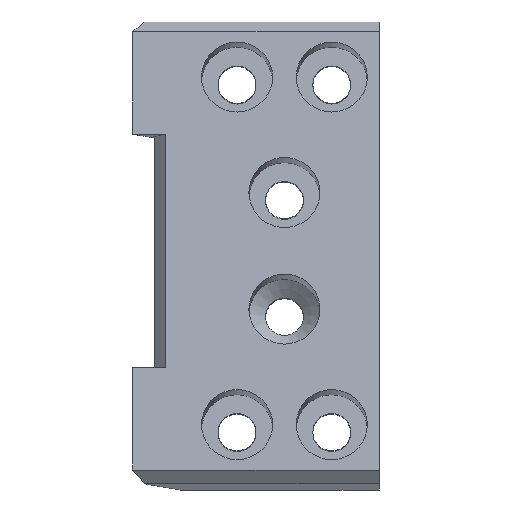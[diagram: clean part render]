
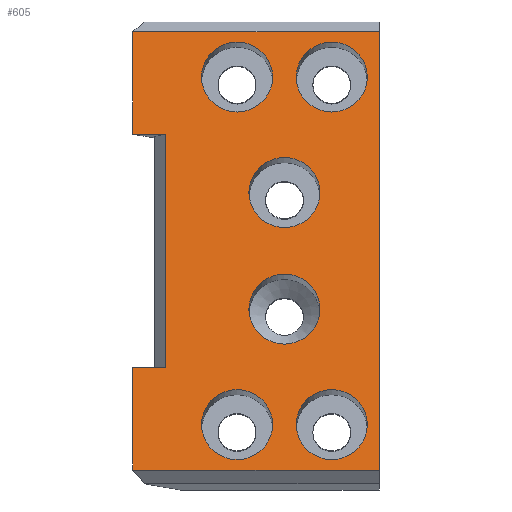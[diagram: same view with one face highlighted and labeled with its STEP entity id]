
A CAD part, top view. The second image highlights one B-rep face of the part: STEP entity #605.
In plain terms, the highlighted planar face has unit normal (0, 0.174, 0.985).
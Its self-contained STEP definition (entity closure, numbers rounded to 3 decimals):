
#15=FACE_BOUND('',#131,.T.);
#16=FACE_BOUND('',#132,.T.);
#17=FACE_BOUND('',#133,.T.);
#18=FACE_BOUND('',#134,.T.);
#19=FACE_BOUND('',#135,.T.);
#20=FACE_BOUND('',#136,.T.);
#42=CIRCLE('',#634,3.);
#46=CIRCLE('',#640,3.);
#51=CIRCLE('',#650,3.);
#54=CIRCLE('',#655,3.);
#59=CIRCLE('',#669,3.);
#62=CIRCLE('',#674,3.);
#97=FACE_OUTER_BOUND('',#130,.T.);
#130=EDGE_LOOP('',(#513,#514,#515,#516,#517,#518,#519,#520));
#131=EDGE_LOOP('',(#521));
#132=EDGE_LOOP('',(#522));
#133=EDGE_LOOP('',(#523));
#134=EDGE_LOOP('',(#524));
#135=EDGE_LOOP('',(#525));
#136=EDGE_LOOP('',(#526));
#168=LINE('',#924,#225);
#175=LINE('',#951,#232);
#183=LINE('',#970,#240);
#186=LINE('',#975,#243);
#187=LINE('',#978,#244);
#193=LINE('',#1002,#250);
#197=LINE('',#1010,#254);
#198=LINE('',#1011,#255);
#225=VECTOR('',#746,10.);
#232=VECTOR('',#775,10.);
#240=VECTOR('',#795,10.);
#243=VECTOR('',#800,10.);
#244=VECTOR('',#803,10.);
#250=VECTOR('',#831,10.);
#254=VECTOR('',#837,10.);
#255=VECTOR('',#838,10.);
#276=VERTEX_POINT('',#897);
#280=VERTEX_POINT('',#909);
#283=VERTEX_POINT('',#921);
#284=VERTEX_POINT('',#923);
#287=VERTEX_POINT('',#933);
#290=VERTEX_POINT('',#943);
#291=VERTEX_POINT('',#947);
#293=VERTEX_POINT('',#950);
#299=VERTEX_POINT('',#973);
#300=VERTEX_POINT('',#977);
#303=VERTEX_POINT('',#987);
#306=VERTEX_POINT('',#997);
#307=VERTEX_POINT('',#1001);
#310=VERTEX_POINT('',#1009);
#332=EDGE_CURVE('',#276,#276,#42,.T.);
#338=EDGE_CURVE('',#280,#280,#46,.T.);
#344=EDGE_CURVE('',#283,#284,#168,.T.);
#350=EDGE_CURVE('',#287,#287,#51,.T.);
#355=EDGE_CURVE('',#290,#290,#54,.T.);
#357=EDGE_CURVE('',#293,#291,#175,.T.);
#367=EDGE_CURVE('',#293,#283,#183,.T.);
#370=EDGE_CURVE('',#299,#284,#186,.T.);
#371=EDGE_CURVE('',#300,#299,#187,.T.);
#376=EDGE_CURVE('',#303,#303,#59,.T.);
#381=EDGE_CURVE('',#306,#306,#62,.T.);
#383=EDGE_CURVE('',#307,#291,#193,.T.);
#387=EDGE_CURVE('',#310,#307,#197,.T.);
#388=EDGE_CURVE('',#310,#300,#198,.T.);
#513=ORIENTED_EDGE('',*,*,#371,.T.);
#514=ORIENTED_EDGE('',*,*,#370,.T.);
#515=ORIENTED_EDGE('',*,*,#344,.F.);
#516=ORIENTED_EDGE('',*,*,#367,.F.);
#517=ORIENTED_EDGE('',*,*,#357,.T.);
#518=ORIENTED_EDGE('',*,*,#383,.F.);
#519=ORIENTED_EDGE('',*,*,#387,.F.);
#520=ORIENTED_EDGE('',*,*,#388,.T.);
#521=ORIENTED_EDGE('',*,*,#332,.F.);
#522=ORIENTED_EDGE('',*,*,#338,.F.);
#523=ORIENTED_EDGE('',*,*,#355,.F.);
#524=ORIENTED_EDGE('',*,*,#350,.F.);
#525=ORIENTED_EDGE('',*,*,#376,.T.);
#526=ORIENTED_EDGE('',*,*,#381,.T.);
#574=PLANE('',#676);
#605=ADVANCED_FACE('',(#97,#15,#16,#17,#18,#19,#20),#574,.T.);
#634=AXIS2_PLACEMENT_3D('',#899,#717,#718);
#640=AXIS2_PLACEMENT_3D('',#911,#731,#732);
#650=AXIS2_PLACEMENT_3D('',#935,#758,#759);
#655=AXIS2_PLACEMENT_3D('',#945,#770,#771);
#669=AXIS2_PLACEMENT_3D('',#988,#814,#815);
#674=AXIS2_PLACEMENT_3D('',#998,#826,#827);
#676=AXIS2_PLACEMENT_3D('',#1008,#835,#836);
#717=DIRECTION('center_axis',(0.,0.174,0.985));
#718=DIRECTION('ref_axis',(-1.,0.,0.));
#731=DIRECTION('center_axis',(0.,0.174,0.985));
#732=DIRECTION('ref_axis',(-1.,0.,0.));
#746=DIRECTION('',(1.,0.,0.));
#758=DIRECTION('center_axis',(0.,0.174,0.985));
#759=DIRECTION('ref_axis',(-1.,0.,0.));
#770=DIRECTION('center_axis',(0.,0.174,0.985));
#771=DIRECTION('ref_axis',(-1.,0.,0.));
#775=DIRECTION('',(1.,0.,0.));
#795=DIRECTION('',(0.,0.985,-0.174));
#800=DIRECTION('',(0.,-0.985,0.174));
#803=DIRECTION('',(1.,0.,0.));
#814=DIRECTION('center_axis',(0.,-0.174,-0.985));
#815=DIRECTION('ref_axis',(-1.,0.,0.));
#826=DIRECTION('center_axis',(0.,-0.174,-0.985));
#827=DIRECTION('ref_axis',(-1.,0.,0.));
#831=DIRECTION('',(0.,-0.985,0.174));
#835=DIRECTION('center_axis',(0.,0.174,0.985));
#836=DIRECTION('ref_axis',(-1.,0.,0.));
#837=DIRECTION('',(1.,0.,0.));
#838=DIRECTION('',(0.,-0.985,0.174));
#897=CARTESIAN_POINT('',(65.726,-293.163,3.786));
#899=CARTESIAN_POINT('Origin',(62.726,-293.163,3.786));
#909=CARTESIAN_POINT('',(65.726,-303.011,5.523));
#911=CARTESIAN_POINT('Origin',(62.726,-303.011,5.523));
#921=CARTESIAN_POINT('',(49.927,-307.936,6.391));
#923=CARTESIAN_POINT('',(52.726,-307.936,6.391));
#924=CARTESIAN_POINT('',(85.276,-307.936,6.391));
#933=CARTESIAN_POINT('',(61.726,-312.761,7.242));
#935=CARTESIAN_POINT('Origin',(58.726,-312.761,7.242));
#943=CARTESIAN_POINT('',(69.726,-312.761,7.242));
#945=CARTESIAN_POINT('Origin',(66.726,-312.761,7.242));
#947=CARTESIAN_POINT('',(70.726,-316.602,7.919));
#950=CARTESIAN_POINT('',(49.927,-316.602,7.919));
#951=CARTESIAN_POINT('',(97.476,-316.602,7.919));
#970=CARTESIAN_POINT('',(49.927,-324.086,9.239));
#973=CARTESIAN_POINT('',(52.726,-288.239,2.918));
#975=CARTESIAN_POINT('',(52.726,-307.886,6.382));
#977=CARTESIAN_POINT('',(49.927,-288.239,2.918));
#978=CARTESIAN_POINT('',(85.276,-288.239,2.918));
#987=CARTESIAN_POINT('',(61.726,-283.414,2.067));
#988=CARTESIAN_POINT('Origin',(58.726,-283.414,2.067));
#997=CARTESIAN_POINT('',(69.726,-283.414,2.067));
#998=CARTESIAN_POINT('Origin',(66.726,-283.414,2.067));
#1001=CARTESIAN_POINT('',(70.726,-279.573,1.39));
#1002=CARTESIAN_POINT('',(70.726,-314.337,7.519));
#1008=CARTESIAN_POINT('Origin',(113.726,-265.589,-1.076));
#1009=CARTESIAN_POINT('',(49.927,-279.573,1.39));
#1010=CARTESIAN_POINT('',(97.476,-279.573,1.39));
#1011=CARTESIAN_POINT('',(49.927,-272.089,0.07));
